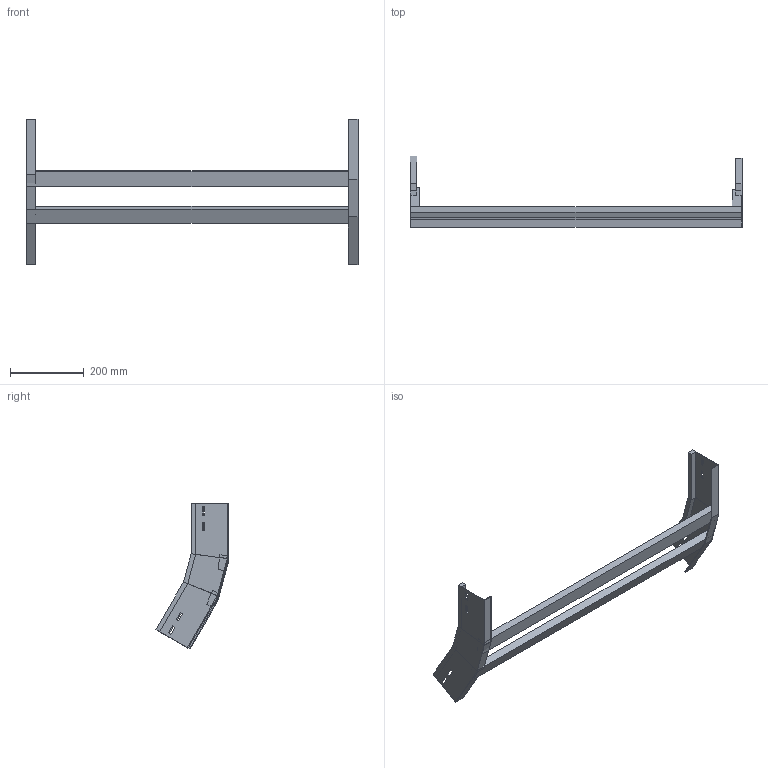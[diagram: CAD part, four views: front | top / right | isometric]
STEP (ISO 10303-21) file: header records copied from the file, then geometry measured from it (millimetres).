
FILE_DESCRIPTION (( 'STEP AP214' ), '1' );
FILE_NAME ('A2X32B3D900XX.step', '2025-03-20T09:57:20', ( '' ), ( '' ), 'SwSTEP 2.0', 'SolidWorks 2023', '' );
FILE_SCHEMA (( 'AUTOMOTIVE_DESIGN' ));
Length unit declared in the file: millimetre
Products named in the file (3): TRAVERSINO_900; LONGH.SALITA_30°_H100_R300; A2X32B3D900XX
Assembly tree (4 placements, depth 2):
  A2X32B3D900XX
    LONGH.SALITA_30°_H100_R300  x2
    TRAVERSINO_900  x2
Bounding box: 900 x 195.25 x 394.23 mm (x, y, z)
Volume: 1788886.2 mm3; surface area: 445379.2 mm2
Topology: 4 solids, 4 shells, 96 faces, 232 edges, 144 vertices
Faces by surface type: plane 96
Entity records: 1472 total; most frequent: CARTESIAN_POINT 243, ORIENTED_EDGE 232, DIRECTION 226, LINE 116, VECTOR 116, EDGE_CURVE 116, VERTEX_POINT 72, EDGE_LOOP 56
